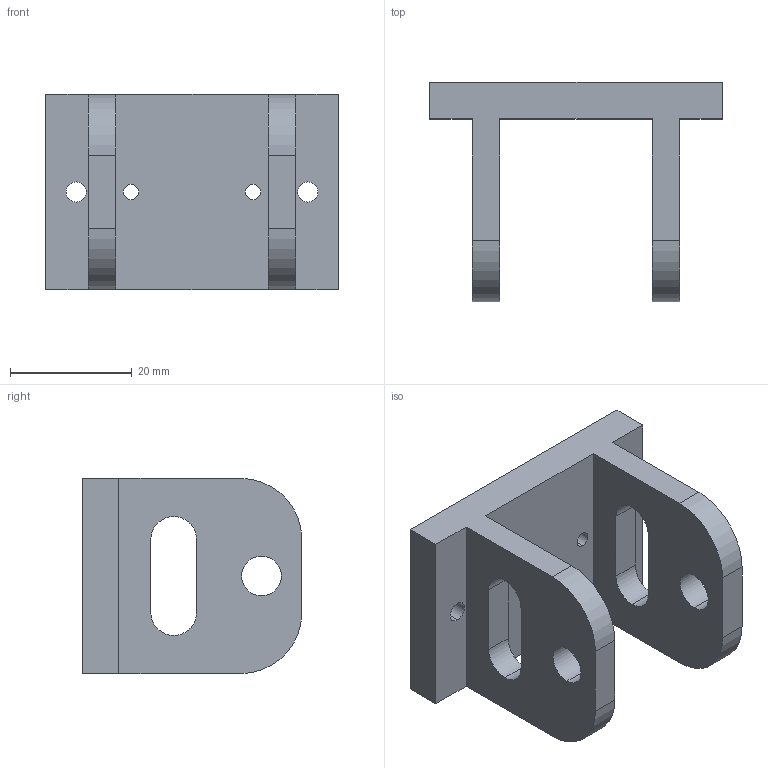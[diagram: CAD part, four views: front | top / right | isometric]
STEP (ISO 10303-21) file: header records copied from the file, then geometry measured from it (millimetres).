
FILE_DESCRIPTION (( 'STEP AP214' ), '1' );
FILE_NAME ('131021.STEP', '2021-10-20T10:50:34', ( '' ), ( '' ), 'SwSTEP 2.0', 'SolidWorks 2018', '' );
FILE_SCHEMA (( 'AUTOMOTIVE_DESIGN' ));
Length unit declared in the file: millimetre
Products named in the file (1): 131021
Bounding box: 48 x 36 x 32 mm (x, y, z)
Volume: 15801.9 mm3; surface area: 8270.3 mm2
Topology: 1 solids, 1 shells, 40 faces, 114 edges, 76 vertices
Faces by surface type: cylinder 22, plane 18
Entity records: 1476 total; most frequent: DIRECTION 240, CARTESIAN_POINT 231, ORIENTED_EDGE 228, EDGE_CURVE 114, AXIS2_PLACEMENT_3D 85, VERTEX_POINT 76, LINE 70, VECTOR 70
